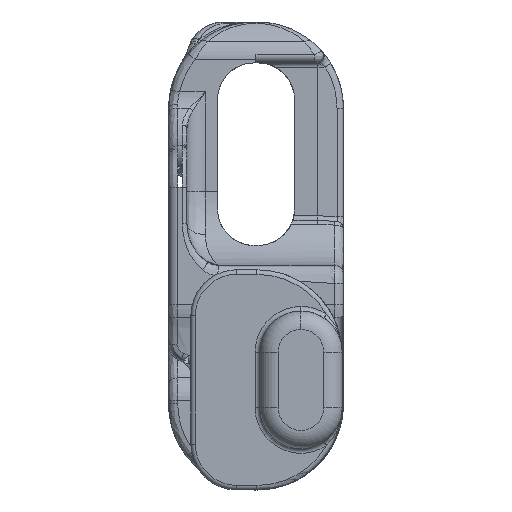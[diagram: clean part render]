
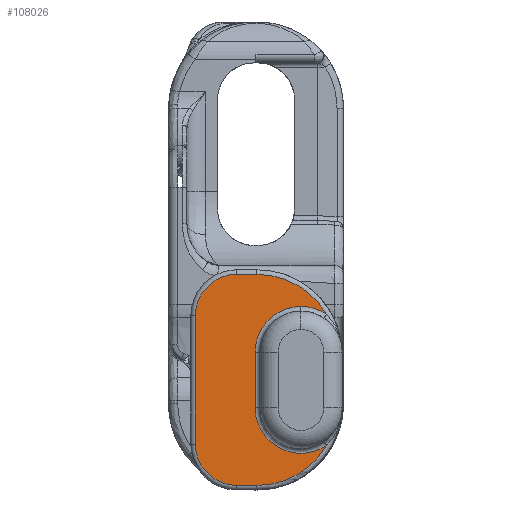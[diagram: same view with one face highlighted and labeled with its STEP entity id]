
A CAD part, left-side view. The second image highlights one B-rep face of the part: STEP entity #108026.
In plain terms, the highlighted planar face has unit normal (-1, 0, 0).
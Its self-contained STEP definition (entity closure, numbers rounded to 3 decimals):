
#5088 = VERTEX_POINT ( 'NONE', #91278 ) ;
#13672 = VERTEX_POINT ( 'NONE', #18707 ) ;
#13910 = CARTESIAN_POINT ( 'NONE',  ( -94.477, -4.555, -0.296 ) ) ;
#14644 = DIRECTION ( 'NONE',  ( 0., 0., 1. ) ) ;
#14646 = DIRECTION ( 'NONE',  ( 1., 0., 0. ) ) ;
#14647 = AXIS2_PLACEMENT_3D ( 'NONE', #14676, #14646, #14644 ) ;
#14649 = CIRCLE ( 'NONE', #14647, 5. ) ;
#14660 = CARTESIAN_POINT ( 'NONE',  ( -94.477, 0.445, -5.296 ) ) ;
#14676 = CARTESIAN_POINT ( 'NONE',  ( -94.477, -4.555, -5.296 ) ) ;
#15565 = EDGE_CURVE ( 'NONE', #16860, #57921, #19215, .T. ) ;
#16076 = VERTEX_POINT ( 'NONE', #19250 ) ;
#16479 = EDGE_CURVE ( 'NONE', #16076, #16860, #20172, .T. ) ;
#16860 = VERTEX_POINT ( 'NONE', #21199 ) ;
#17223 = ORIENTED_EDGE ( 'NONE', *, *, #16479, .T. ) ;
#18707 = CARTESIAN_POINT ( 'NONE',  ( -94.477, 6.945, -15.296 ) ) ;
#19154 = DIRECTION ( 'NONE',  ( 0., 0., 1. ) ) ;
#19156 = DIRECTION ( 'NONE',  ( -1., 0., 0. ) ) ;
#19158 = CARTESIAN_POINT ( 'NONE',  ( -94.477, 2.445, -1.296 ) ) ;
#19162 = AXIS2_PLACEMENT_3D ( 'NONE', #19158, #19156, #19154 ) ;
#19215 = CIRCLE ( 'NONE', #19162, 4.5 ) ;
#19250 = CARTESIAN_POINT ( 'NONE',  ( -94.477, 0.245, 3.204 ) ) ;
#20166 = DIRECTION ( 'NONE',  ( 0., 1., 0. ) ) ;
#20169 = VECTOR ( 'NONE', #20166, 1000. ) ;
#20170 = CARTESIAN_POINT ( 'NONE',  ( -94.477, 2.445, 3.204 ) ) ;
#20172 = LINE ( 'NONE', #20170, #20169 ) ;
#20909 = DIRECTION ( 'NONE',  ( 0., 0., -1. ) ) ;
#20911 = VECTOR ( 'NONE', #20909, 1000. ) ;
#20937 = CARTESIAN_POINT ( 'NONE',  ( -94.477, 6.945, -15.296 ) ) ;
#20938 = LINE ( 'NONE', #20937, #20911 ) ;
#21199 = CARTESIAN_POINT ( 'NONE',  ( -94.477, 2.445, 3.204 ) ) ;
#25273 = EDGE_CURVE ( 'NONE', #30902, #29030, #105720, .T. ) ;
#27617 = EDGE_CURVE ( 'NONE', #5088, #30902, #57145, .T. ) ;
#29030 = VERTEX_POINT ( 'NONE', #60976 ) ;
#29880 = CARTESIAN_POINT ( 'NONE',  ( -94.477, 6.945, -1.296 ) ) ;
#30504 = EDGE_CURVE ( 'NONE', #13672, #5088, #64940, .T. ) ;
#30902 = VERTEX_POINT ( 'NONE', #65354 ) ;
#31968 = EDGE_CURVE ( 'NONE', #50991, #34480, #68161, .T. ) ;
#34480 = VERTEX_POINT ( 'NONE', #74901 ) ;
#50991 = VERTEX_POINT ( 'NONE', #13910 ) ;
#52255 = VERTEX_POINT ( 'NONE', #14660 ) ;
#52266 = EDGE_CURVE ( 'NONE', #52255, #50991, #14649, .T. ) ;
#54099 = EDGE_CURVE ( 'NONE', #57921, #13672, #20938, .T. ) ;
#57143 = CARTESIAN_POINT ( 'NONE',  ( -94.477, 0.245, -19.796 ) ) ;
#57145 = LINE ( 'NONE', #57143, #57226 ) ;
#57225 = DIRECTION ( 'NONE',  ( 0., -1., 0. ) ) ;
#57226 = VECTOR ( 'NONE', #57225, 1000. ) ;
#57921 = VERTEX_POINT ( 'NONE', #29880 ) ;
#60976 = CARTESIAN_POINT ( 'NONE',  ( -94.477, -7.349, -15.442 ) ) ;
#64940 = CIRCLE ( 'NONE', #64947, 4.5 ) ;
#64945 = CARTESIAN_POINT ( 'NONE',  ( -94.477, 2.445, -15.296 ) ) ;
#64947 = AXIS2_PLACEMENT_3D ( 'NONE', #64945, #65009, #65008 ) ;
#65008 = DIRECTION ( 'NONE',  ( 0., 0., 1. ) ) ;
#65009 = DIRECTION ( 'NONE',  ( -1., 0., 0. ) ) ;
#65354 = CARTESIAN_POINT ( 'NONE',  ( -94.477, 0.245, -19.796 ) ) ;
#65443 = ORIENTED_EDGE ( 'NONE', *, *, #54099, .T. ) ;
#65691 = ORIENTED_EDGE ( 'NONE', *, *, #15565, .T. ) ;
#65692 = ORIENTED_EDGE ( 'NONE', *, *, #108135, .T. ) ;
#65912 = ORIENTED_EDGE ( 'NONE', *, *, #25273, .T. ) ;
#68161 = CIRCLE ( 'NONE', #68165, 5. ) ;
#68165 = AXIS2_PLACEMENT_3D ( 'NONE', #68192, #68249, #68248 ) ;
#68192 = CARTESIAN_POINT ( 'NONE',  ( -94.477, -4.555, -5.296 ) ) ;
#68248 = DIRECTION ( 'NONE',  ( 0., 0., 1. ) ) ;
#68249 = DIRECTION ( 'NONE',  ( 1., 0., 0. ) ) ;
#74901 = CARTESIAN_POINT ( 'NONE',  ( -94.477, -7.349, -1.149 ) ) ;
#91278 = CARTESIAN_POINT ( 'NONE',  ( -94.477, 2.445, -19.796 ) ) ;
#93590 = CARTESIAN_POINT ( 'NONE',  ( -94.477, 0.445, -11.296 ) ) ;
#96632 = DIRECTION ( 'NONE',  ( 0., 0., 1. ) ) ;
#96633 = DIRECTION ( 'NONE',  ( -1., 0., 0. ) ) ;
#96634 = CARTESIAN_POINT ( 'NONE',  ( -94.477, 0.245, -5.596 ) ) ;
#96635 = AXIS2_PLACEMENT_3D ( 'NONE', #96634, #96633, #96632 ) ;
#96636 = CIRCLE ( 'NONE', #96635, 8.8 ) ;
#96721 = FACE_OUTER_BOUND ( 'NONE', #108093, .T. ) ;
#96752 = DIRECTION ( 'NONE',  ( 0., 0., 1. ) ) ;
#96754 = DIRECTION ( 'NONE',  ( -1., 0., 0. ) ) ;
#96755 = CARTESIAN_POINT ( 'NONE',  ( -94.477, 0.245, -5.596 ) ) ;
#96756 = AXIS2_PLACEMENT_3D ( 'NONE', #96755, #96754, #96752 ) ;
#96760 = PLANE ( 'NONE',  #96756 ) ;
#96829 = DIRECTION ( 'NONE',  ( 0., 0., 1. ) ) ;
#96830 = VECTOR ( 'NONE', #96829, 1000. ) ;
#96832 = CARTESIAN_POINT ( 'NONE',  ( -94.477, 0.445, -5.596 ) ) ;
#96833 = LINE ( 'NONE', #96832, #96830 ) ;
#97264 = CARTESIAN_POINT ( 'NONE',  ( -94.477, -4.555, -11.296 ) ) ;
#97296 = AXIS2_PLACEMENT_3D ( 'NONE', #97264, #97316, #97437 ) ;
#97316 = DIRECTION ( 'NONE',  ( 1., 0., 0. ) ) ;
#97320 = CIRCLE ( 'NONE', #97296, 5. ) ;
#97437 = DIRECTION ( 'NONE',  ( 0., 0., 1. ) ) ;
#100045 = VERTEX_POINT ( 'NONE', #93590 ) ;
#100059 = ORIENTED_EDGE ( 'NONE', *, *, #52266, .T. ) ;
#100216 = ORIENTED_EDGE ( 'NONE', *, *, #30504, .T. ) ;
#100217 = ORIENTED_EDGE ( 'NONE', *, *, #27617, .T. ) ;
#105720 = CIRCLE ( 'NONE', #105748, 8.8 ) ;
#105745 = DIRECTION ( 'NONE',  ( 0., 0., 1. ) ) ;
#105746 = DIRECTION ( 'NONE',  ( -1., 0., 0. ) ) ;
#105747 = CARTESIAN_POINT ( 'NONE',  ( -94.477, 0.245, -10.996 ) ) ;
#105748 = AXIS2_PLACEMENT_3D ( 'NONE', #105747, #105746, #105745 ) ;
#107976 = ORIENTED_EDGE ( 'NONE', *, *, #107988, .T. ) ;
#107978 = ORIENTED_EDGE ( 'NONE', *, *, #31968, .T. ) ;
#107988 = EDGE_CURVE ( 'NONE', #34480, #16076, #96636, .T. ) ;
#108026 = ADVANCED_FACE ( 'NONE', ( #96721 ), #96760, .T. ) ;
#108048 = ORIENTED_EDGE ( 'NONE', *, *, #108063, .T. ) ;
#108063 = EDGE_CURVE ( 'NONE', #100045, #52255, #96833, .T. ) ;
#108093 = EDGE_LOOP ( 'NONE', ( #108048, #100059, #107978, #107976, #17223, #65691, #65443, #100216, #100217, #65912, #65692 ) ) ;
#108135 = EDGE_CURVE ( 'NONE', #29030, #100045, #97320, .T. ) ;
